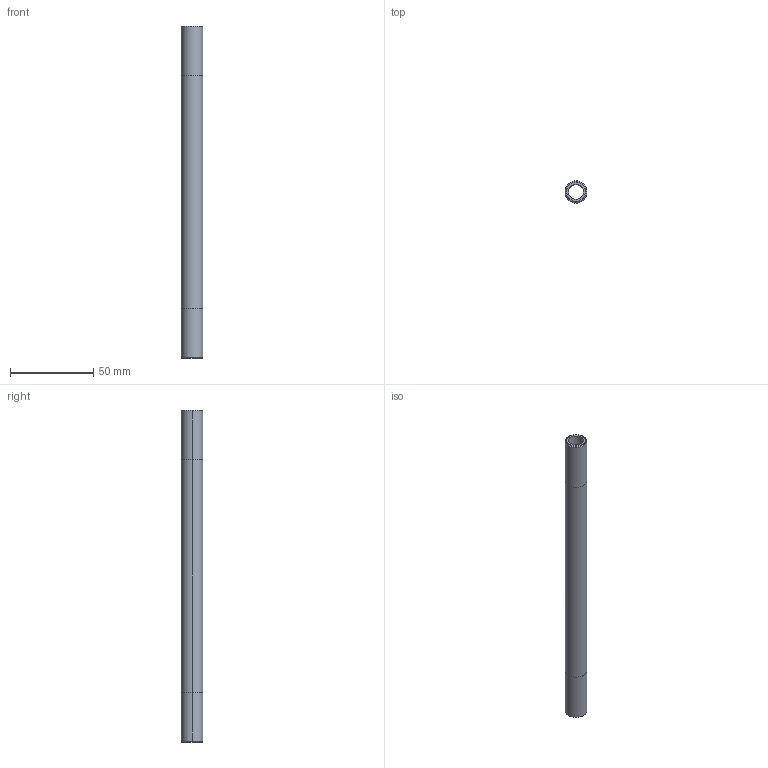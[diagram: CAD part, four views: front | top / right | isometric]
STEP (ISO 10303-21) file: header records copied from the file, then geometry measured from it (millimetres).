
FILE_DESCRIPTION (( 'STEP AP214' ), '1' );
FILE_NAME ('BruyRubio_BR88-1_4_GAS_x_200.STEP', '2019-12-17T12:23:49', ( '' ), ( '' ), 'SwSTEP 2.0', 'SolidWorks 2017', '' );
FILE_SCHEMA (( 'AUTOMOTIVE_DESIGN' ));
Length unit declared in the file: millimetre
Products named in the file (1): BruyRubio_BR88-1_4_GAS_x_200
Bounding box: 13.16 x 13.16 x 200 mm (x, y, z)
Volume: 14007.7 mm3; surface area: 18411.7 mm2
Topology: 3 solids, 3 shells, 28 faces, 56 edges, 36 vertices
Faces by surface type: cylinder 16, plane 8, cone 4
Entity records: 1116 total; most frequent: DIRECTION 150, CARTESIAN_POINT 121, ORIENTED_EDGE 112, AXIS2_PLACEMENT_3D 65, EDGE_CURVE 56, EDGE_LOOP 36, VERTEX_POINT 36, CIRCLE 36
